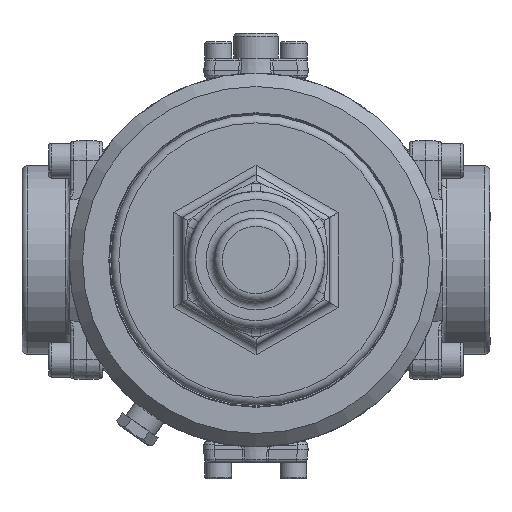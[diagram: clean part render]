
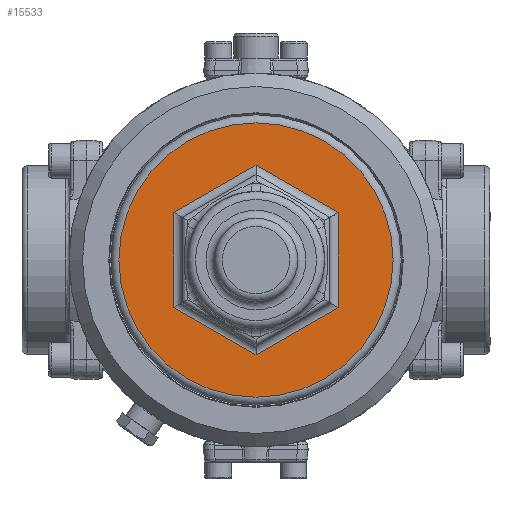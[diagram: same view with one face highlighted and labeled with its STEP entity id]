
A CAD part, front view. The second image highlights one B-rep face of the part: STEP entity #15533.
In plain terms, the highlighted planar face has unit normal (0, -1, 0).
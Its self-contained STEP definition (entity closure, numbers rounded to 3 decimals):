
#1985=LINE('',#29471,#2719);
#1987=LINE('',#29479,#2721);
#1988=LINE('',#29482,#2722);
#1990=LINE('',#29488,#2724);
#1992=LINE('',#29493,#2726);
#1993=LINE('',#29495,#2727);
#2719=VECTOR('',#20535,10.);
#2721=VECTOR('',#20543,10.);
#2722=VECTOR('',#20548,10.);
#2724=VECTOR('',#20554,10.);
#2726=VECTOR('',#20560,10.);
#2727=VECTOR('',#20563,10.);
#3455=FACE_BOUND('',#4992,.T.);
#4002=FACE_OUTER_BOUND('',#4991,.T.);
#4991=EDGE_LOOP('',(#12631));
#4992=EDGE_LOOP('',(#12632,#12633,#12634,#12635,#12636,#12637));
#5906=CIRCLE('',#17272,51.);
#7163=VERTEX_POINT('',#29468);
#7164=VERTEX_POINT('',#29470);
#7166=VERTEX_POINT('',#29476);
#7167=VERTEX_POINT('',#29478);
#7169=VERTEX_POINT('',#29486);
#7170=VERTEX_POINT('',#29491);
#7171=VERTEX_POINT('',#29502);
#9068=EDGE_CURVE('',#7163,#7164,#1985,.T.);
#9072=EDGE_CURVE('',#7166,#7167,#1987,.T.);
#9074=EDGE_CURVE('',#7167,#7163,#1988,.T.);
#9077=EDGE_CURVE('',#7169,#7166,#1990,.T.);
#9080=EDGE_CURVE('',#7170,#7169,#1992,.T.);
#9081=EDGE_CURVE('',#7164,#7170,#1993,.T.);
#9084=EDGE_CURVE('',#7171,#7171,#5906,.T.);
#12631=ORIENTED_EDGE('',*,*,#9084,.F.);
#12632=ORIENTED_EDGE('',*,*,#9072,.F.);
#12633=ORIENTED_EDGE('',*,*,#9077,.F.);
#12634=ORIENTED_EDGE('',*,*,#9080,.F.);
#12635=ORIENTED_EDGE('',*,*,#9081,.F.);
#12636=ORIENTED_EDGE('',*,*,#9068,.F.);
#12637=ORIENTED_EDGE('',*,*,#9074,.F.);
#14894=PLANE('',#17271);
#15533=ADVANCED_FACE('',(#4002,#3455),#14894,.T.);
#17271=AXIS2_PLACEMENT_3D('',#29501,#20572,#20573);
#17272=AXIS2_PLACEMENT_3D('',#29503,#20574,#20575);
#20535=DIRECTION('',(0.866,0.,0.5));
#20543=DIRECTION('',(0.,0.,-1.));
#20548=DIRECTION('',(0.866,0.,-0.5));
#20554=DIRECTION('',(-0.866,0.,-0.5));
#20560=DIRECTION('',(-0.866,0.,0.5));
#20563=DIRECTION('',(0.,0.,1.));
#20572=DIRECTION('center_axis',(0.,-1.,0.));
#20573=DIRECTION('ref_axis',(0.,0.,-1.));
#20574=DIRECTION('center_axis',(0.,1.,0.));
#20575=DIRECTION('ref_axis',(1.,0.,0.));
#29468=CARTESIAN_POINT('',(0.,-45.,-35.218));
#29470=CARTESIAN_POINT('',(30.5,-45.,-17.609));
#29471=CARTESIAN_POINT('',(-6.531,-45.,-38.989));
#29476=CARTESIAN_POINT('',(-30.5,-45.,17.609));
#29478=CARTESIAN_POINT('',(-30.5,-45.,-17.609));
#29479=CARTESIAN_POINT('',(-30.5,-45.,7.939));
#29482=CARTESIAN_POINT('',(-37.031,-45.,-13.838));
#29486=CARTESIAN_POINT('',(0.,-45.,35.218));
#29488=CARTESIAN_POINT('',(-23.281,-45.,21.777));
#29491=CARTESIAN_POINT('',(30.5,-45.,17.609));
#29493=CARTESIAN_POINT('',(7.219,-45.,31.051));
#29495=CARTESIAN_POINT('',(30.5,-45.,-7.939));
#29501=CARTESIAN_POINT('Origin',(-39.75,-45.,0.));
#29502=CARTESIAN_POINT('',(0.,-45.,51.));
#29503=CARTESIAN_POINT('Origin',(0.,-45.,0.));
